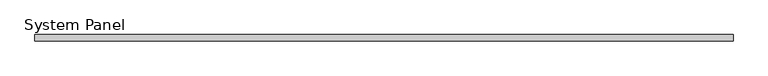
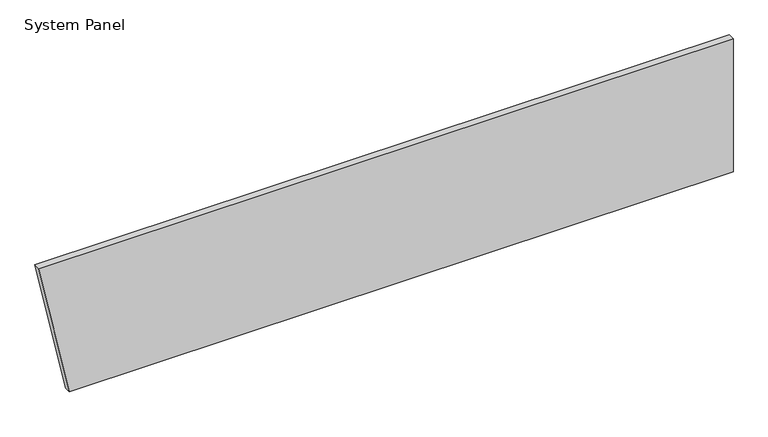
"""IFC4 building model written with IfcOpenShell, lengths in millimetres: plate geometry, System Panel : Inspire 50mm Horizontal - Plain RHEA-PIR."""

from ifc_helpers import new_model, si_unit, frame, origin, place, context, project, spatial, polyline, outline, extrude, source, transform, mapped, element, save


def system_panel_57492bcf(model_context):
    return source(origin(), model_context, "Body", "SweptSolid", [
        extrude(outline(polyline([(0.0, -2470.4338217), (0.0, 2709.5661783), (1100.0, 2709.5661783), (1100.0, -2709.5661783), (0.0, -2470.4338217)])), frame((0.0, -50.0, 0.0), z_axis=(0.0, 1.0, 0.0), x_axis=(0.0, 0.0, 1.0)), (0.0, 0.0, 1.0), 50.0),
    ])


if __name__ == "__main__":
    model = new_model("IFC4")
    model_context = context("Model", 3, world=origin())
    ifc_project = project(units=[si_unit("LENGTHUNIT", "METRE", prefix="MILLI")], contexts=[model_context])
    site = spatial("IfcSite", under=ifc_project)
    building = spatial("IfcBuilding", under=site)
    placement = place(None, origin())
    system_panel_shape = system_panel_57492bcf(model_context)
    element("IfcPlate", 1, ObjectType="System Panel : Inspire 50mm Horizontal - Plain RHEA-PIR", at=placement, inside=building, context=model_context, shape_type="MappedRepresentation", body=[
        mapped(system_panel_shape, transform((0.0, 0.0, 0.0), x_axis=(1.0, 0.0, 0.0), y_axis=(0.0, 1.0, 0.0), z_axis=(0.0, 0.0, 1.0))),
    ])
    save(model, "model.ifc")
